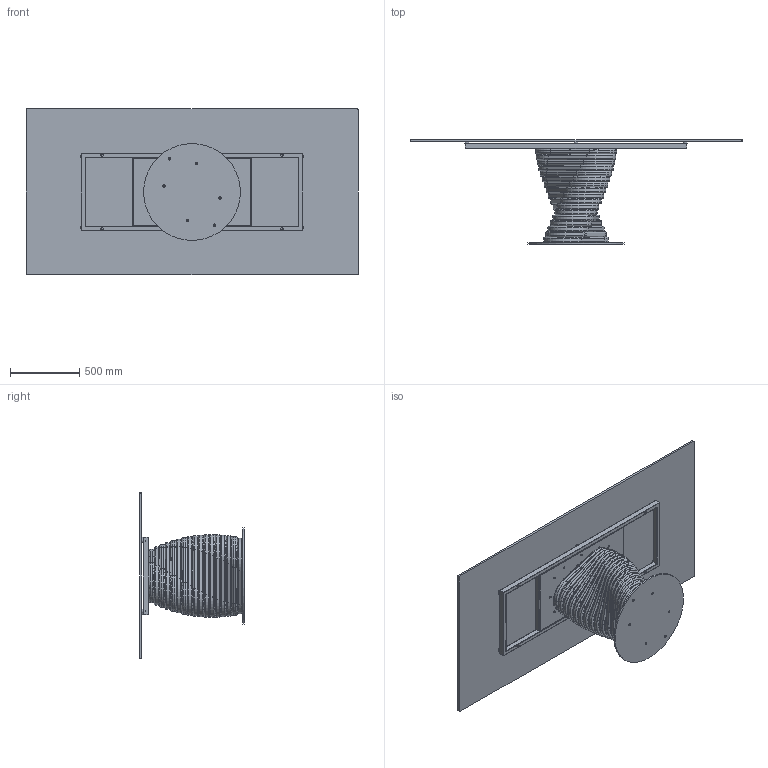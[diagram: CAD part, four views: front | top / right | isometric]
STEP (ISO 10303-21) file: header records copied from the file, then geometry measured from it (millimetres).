
FILE_DESCRIPTION (( 'STEP AP203' ), '1' );
FILE_NAME ('RO23G.STEP', '2024-08-07T13:39:55', ( '' ), ( '' ), 'SwSTEP 2.0', 'SolidWorks 2022', '' );
FILE_SCHEMA (( 'CONFIG_CONTROL_DESIGN' ));
Length unit declared in the file: millimetre
Products named in the file (15): ROBX00000MED-00-Anello rotolo MEDIO_Default<A macchina>; 434070-00-PIEDINO TPV GOMMA NERO D. 30x8max18_filo estetico; M8xXXmm_M8x20mm; TTAV01_01-05-TELAIO UNIVERSALE X TAVOLI 180 240cm; ROBX00000-00-ROTOLO BASE 17 ANELLI; ROBX00000SUP-00-Anello rotolo SUPERIORE_Default<A macchina>; rondella M8_8X24; TTAV01_02-05-VASSOIO IRRIGIDIMENTO TELAIO UNIVERSALE; M8xXXmm_hex_M8X20mm; RO23G; ROB200000-00-PIASTRA BASE_Ø70cm; TTAV01-05-TELAIO UNIVERSALE X TAVOLI 180 240cm; COLLO TELAIO UNIVERSALE TTAV01 CON FERRAMENTA_MTG TOP CRISTALLO VERNICIATO-CERAMICA; ROBX00000INF-00-Anello rotolo INFERIORE_Default<A macchina>; C2XCRXX-00-Piani Rettangolari Cristallo_23 2400x1200
Assembly tree (44 placements, depth 4):
  RO23G
    ROB200000-00-PIASTRA BASE_Ø70cm
    ROBX00000-00-ROTOLO BASE 17 ANELLI
      ROBX00000INF-00-Anello rotolo INFERIORE_Default<A macchina>
      ROBX00000MED-00-Anello rotolo MEDIO_Default<A macchina>  x15
      ROBX00000SUP-00-Anello rotolo SUPERIORE_Default<A macchina>
    M8xXXmm_hex_M8X20mm  x6
    COLLO TELAIO UNIVERSALE TTAV01 CON FERRAMENTA_MTG TOP CRISTALLO VERNICIATO-CERAMICA
      TTAV01-05-TELAIO UNIVERSALE X TAVOLI 180 240cm
        TTAV01_02-05-VASSOIO IRRIGIDIMENTO TELAIO UNIVERSALE
        TTAV01_01-05-TELAIO UNIVERSALE X TAVOLI 180 240cm
      434070-00-PIEDINO TPV GOMMA NERO D. 30x8max18_filo estetico  x6
    rondella M8_8X24  x4
    M8xXXmm_M8x20mm  x4
    C2XCRXX-00-Piani Rettangolari Cristallo_23 2400x1200
Bounding box: 2400 x 757 x 1200 mm (x, y, z)
Volume: 56397327.9 mm3; surface area: 13721579.2 mm2
Topology: 98 solids, 98 shells, 1496 faces, 3548 edges, 2222 vertices
Faces by surface type: plane 618, cylinder 550, torus 220, cone 100, sphere 8
Entity records: 20714 total; most frequent: CARTESIAN_POINT 4699, DIRECTION 2963, ORIENTED_EDGE 2736, EDGE_CURVE 1368, AXIS2_PLACEMENT_3D 1107, VERTEX_POINT 867, VECTOR 749, LINE 749
